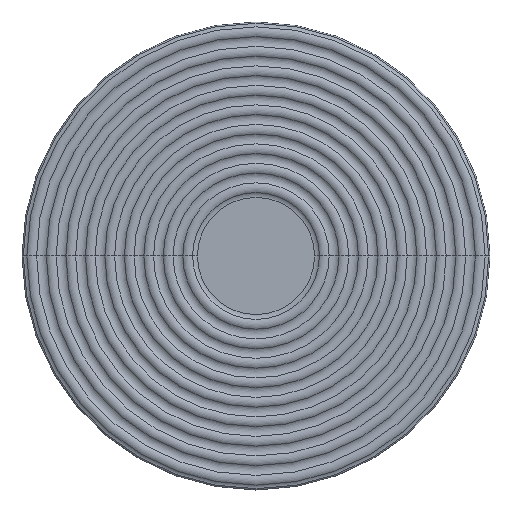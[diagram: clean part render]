
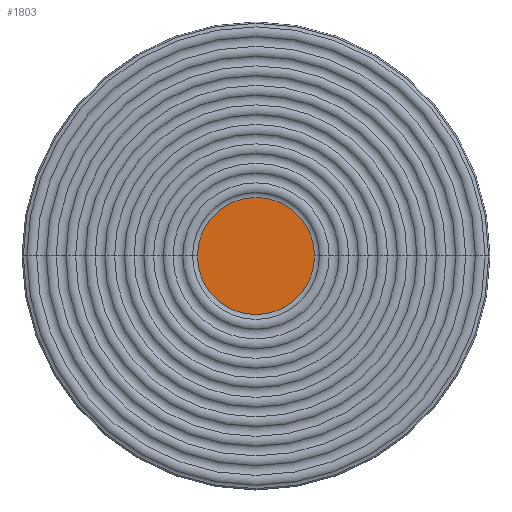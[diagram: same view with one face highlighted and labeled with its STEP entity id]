
A CAD part, top view. The second image highlights one B-rep face of the part: STEP entity #1803.
In plain terms, the highlighted planar face has unit normal (0, 0, 1).
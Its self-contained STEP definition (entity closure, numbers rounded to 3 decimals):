
#32 = ORIENTED_EDGE ( 'NONE', *, *, #3812, .T. ) ;
#73 = AXIS2_PLACEMENT_3D ( 'NONE', #1263, #4701, #1996 ) ;
#111 = CIRCLE ( 'NONE', #73, 37.5 ) ;
#234 = VERTEX_POINT ( 'NONE', #1712 ) ;
#246 = DIRECTION ( 'NONE',  ( 0., 0., 1. ) ) ;
#271 = FACE_OUTER_BOUND ( 'NONE', #2500, .T. ) ;
#555 = DIRECTION ( 'NONE',  ( 1., 0., 0. ) ) ;
#1263 = CARTESIAN_POINT ( 'NONE',  ( 0., 0., 72.806 ) ) ;
#1712 = CARTESIAN_POINT ( 'NONE',  ( -37.5, 0., 72.806 ) ) ;
#1803 = ADVANCED_FACE ( 'NONE', ( #271 ), #2512, .T. ) ;
#1996 = DIRECTION ( 'NONE',  ( 1., 0., 0. ) ) ;
#2369 = ORIENTED_EDGE ( 'NONE', *, *, #3456, .T. ) ;
#2430 = AXIS2_PLACEMENT_3D ( 'NONE', #4601, #4950, #2656 ) ;
#2500 = EDGE_LOOP ( 'NONE', ( #2369, #32 ) ) ;
#2512 = PLANE ( 'NONE',  #4836 ) ;
#2570 = CARTESIAN_POINT ( 'NONE',  ( 37.5, 0., 72.806 ) ) ;
#2656 = DIRECTION ( 'NONE',  ( 1., 0., 0. ) ) ;
#2897 = CARTESIAN_POINT ( 'NONE',  ( 0., 0., 72.806 ) ) ;
#3197 = VERTEX_POINT ( 'NONE', #2570 ) ;
#3444 = CIRCLE ( 'NONE', #2430, 37.5 ) ;
#3456 = EDGE_CURVE ( 'NONE', #3197, #234, #111, .T. ) ;
#3812 = EDGE_CURVE ( 'NONE', #234, #3197, #3444, .T. ) ;
#4601 = CARTESIAN_POINT ( 'NONE',  ( 0., 0., 72.806 ) ) ;
#4701 = DIRECTION ( 'NONE',  ( 0., 0., 1. ) ) ;
#4836 = AXIS2_PLACEMENT_3D ( 'NONE', #2897, #246, #555 ) ;
#4950 = DIRECTION ( 'NONE',  ( 0., 0., 1. ) ) ;
